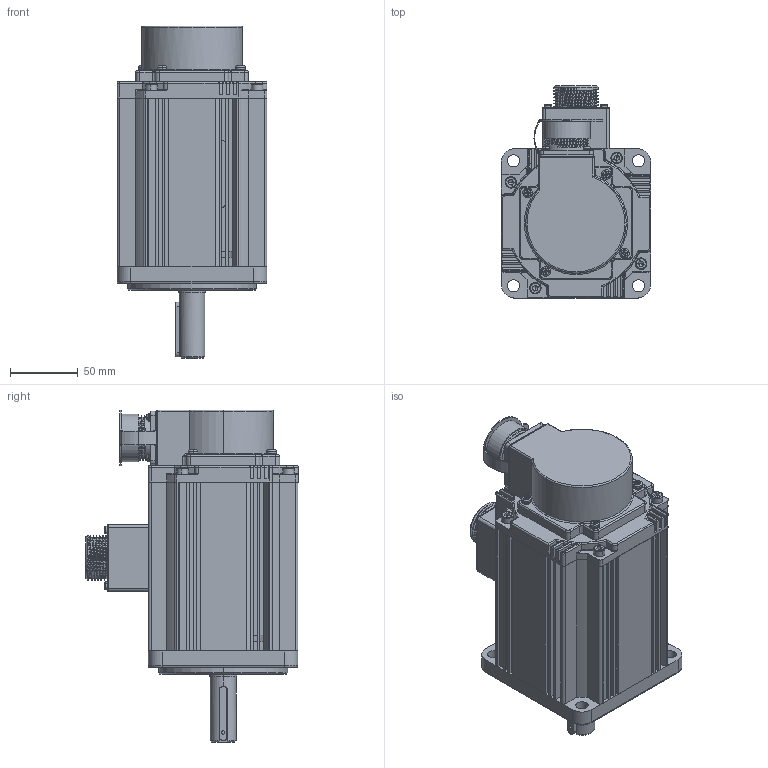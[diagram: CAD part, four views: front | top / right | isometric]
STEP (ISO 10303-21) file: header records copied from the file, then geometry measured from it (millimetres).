
FILE_DESCRIPTION (( 'STEP AP214' ), '1' );
FILE_NAME ('5420.STEP', '2024-01-31T03:55:46', ( '' ), ( '' ), 'SwSTEP 2.0', 'SolidWorks 2019', '' );
FILE_SCHEMA (( 'AUTOMOTIVE_DESIGN' ));
Length unit declared in the file: millimetre
Products named in the file (2): 5420
Bounding box: 110.2 x 156.1 x 244.3 mm (x, y, z)
Surface area: 159243 mm2 (no closed solid volume)
Topology: 0 solids, 49 shells, 924 faces, 2761 edges, 1859 vertices
Faces by surface type: plane 390, cylinder 344, torus 106, cone 56, bspline 18, sphere 10
Entity records: 44930 total; most frequent: CARTESIAN_POINT 10335, DIRECTION 5315, ORIENTED_EDGE 4535, EDGE_CURVE 2730, AXIS2_PLACEMENT_3D 1947, VERTEX_POINT 1851, LINE 1421, VECTOR 1421
